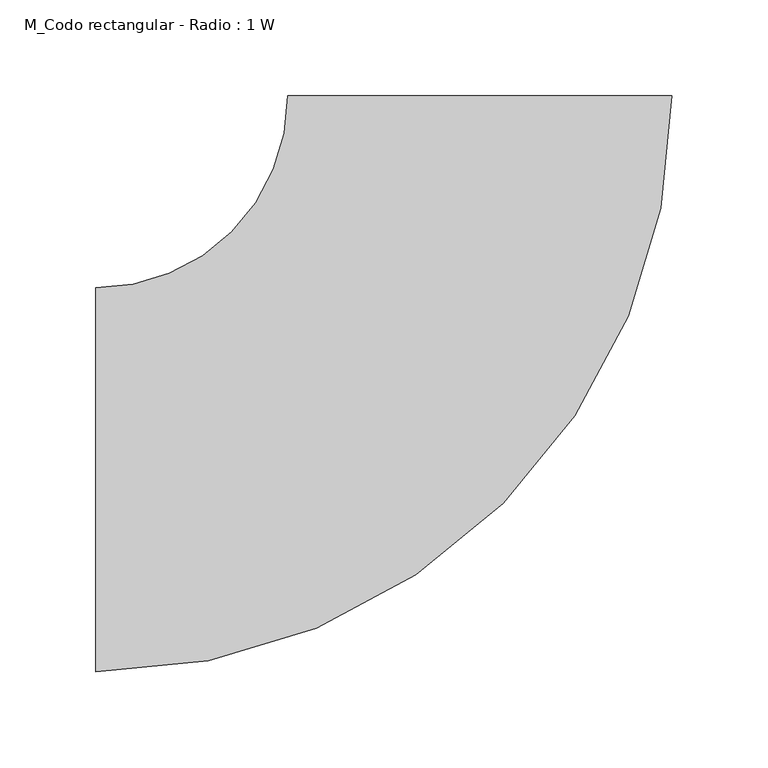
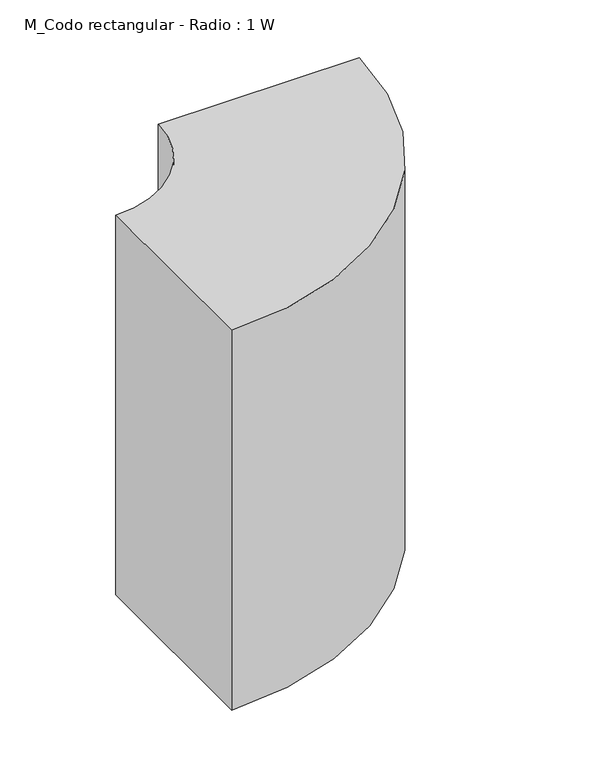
"""IFC4 building model written with IfcOpenShell, lengths in millimetres: duct fitting geometry, M_Codo rectangular - Radio : 1 W."""

from ifc_helpers import new_model, si_unit, point, frame, frame_2d, origin, place, context, project, spatial, polyline, circle_curve, trimmed, segment, composite_curve, outline, extrude, source, transform, mapped, element, save


def m_codo_rectangular_radio_1_w_cdf7fd16(model_context):
    return source(origin(), model_context, "Body", "SweptSolid", [
        extrude(outline(composite_curve([segment(trimmed(circle_curve(frame_2d((-200.0, 200.0)), 300.0), [point((100.0, 200.0))], [point((-200.0, -100.0))], False, "CARTESIAN"), True, "CONTINUOUS"), segment(polyline([(-200.0, -100.0), (-200.0, 100.0)]), True, "CONTINUOUS"), segment(trimmed(circle_curve(frame_2d((-200.0, 200.0)), 100.0), [point((-200.0, 100.0))], [point((-100.0, 200.0))], True, "CARTESIAN"), True, "CONTINUOUS"), segment(polyline([(-100.0, 200.0), (100.0, 200.0)]), True, "CONTINUOUS")], self_intersect=False)), frame((0.0, 0.0, -200.0), z_axis=(0.0, 0.0, 1.0), x_axis=(1.0, 0.0, 0.0)), (0.0, 0.0, 1.0), 400.0),
    ])


if __name__ == "__main__":
    model = new_model("IFC4")
    model_context = context("Model", 3, world=origin())
    ifc_project = project(units=[si_unit("LENGTHUNIT", "METRE", prefix="MILLI")], contexts=[model_context])
    site = spatial("IfcSite", under=ifc_project)
    building = spatial("IfcBuilding", under=site)
    placement = place(None, origin())
    m_codo_rectangular_radio_1_w_shape = m_codo_rectangular_radio_1_w_cdf7fd16(model_context)
    element("IfcDuctFitting", 1, ObjectType="M_Codo rectangular - Radio : 1 W", at=placement, inside=building, context=model_context, shape_type="MappedRepresentation", body=[
        mapped(m_codo_rectangular_radio_1_w_shape, transform((0.0, 0.0, 0.0), x_axis=(1.0, 0.0, 0.0), y_axis=(0.0, 1.0, 0.0), z_axis=(0.0, 0.0, 1.0))),
    ])
    save(model, "model.ifc")
